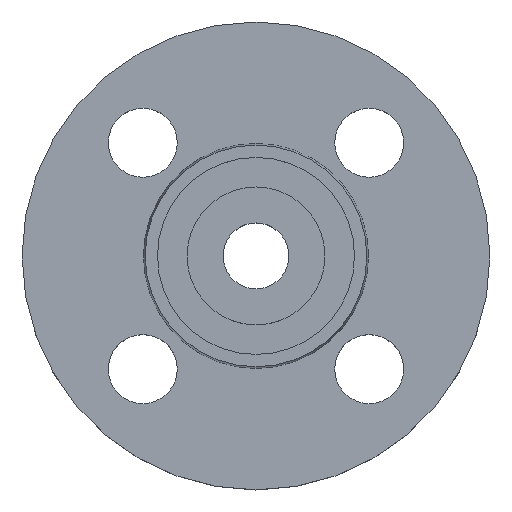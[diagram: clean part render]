
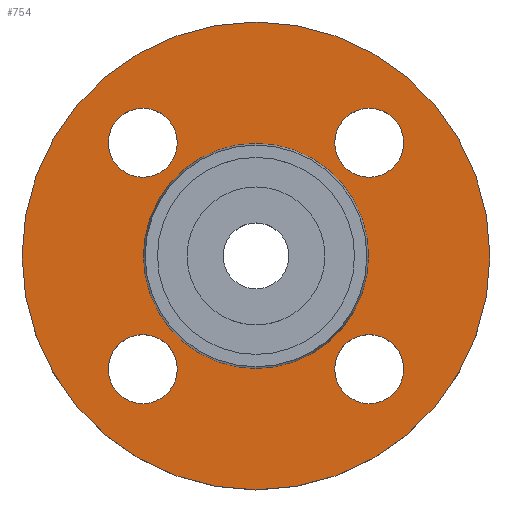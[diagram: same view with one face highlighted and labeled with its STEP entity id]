
A CAD part, top view. The second image highlights one B-rep face of the part: STEP entity #754.
In plain terms, the highlighted planar face has unit normal (0, 0, 1).
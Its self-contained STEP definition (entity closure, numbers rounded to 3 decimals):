
#1 = CIRCLE ( 'NONE', #639, 47.5 ) ;
#9 = CARTESIAN_POINT ( 'NONE',  ( 15.981, -22.981, -2. ) ) ;
#35 = CARTESIAN_POINT ( 'NONE',  ( 15.981, 22.981, -2. ) ) ;
#41 = CIRCLE ( 'NONE', #679, 22.853 ) ;
#45 = AXIS2_PLACEMENT_3D ( 'NONE', #707, #372, #641 ) ;
#46 = DIRECTION ( 'NONE',  ( -1., 0., 0. ) ) ;
#48 = CARTESIAN_POINT ( 'NONE',  ( 29.981, -22.981, -2. ) ) ;
#51 = DIRECTION ( 'NONE',  ( 0., 0., -1. ) ) ;
#53 = CARTESIAN_POINT ( 'NONE',  ( 0., 0., -2. ) ) ;
#59 = CIRCLE ( 'NONE', #384, 7. ) ;
#102 = EDGE_CURVE ( 'NONE', #618, #702, #153, .T. ) ;
#108 = CARTESIAN_POINT ( 'NONE',  ( 47.5, 0., -2. ) ) ;
#109 = EDGE_CURVE ( 'NONE', #669, #540, #303, .T. ) ;
#133 = DIRECTION ( 'NONE',  ( 1., 0., 0. ) ) ;
#134 = DIRECTION ( 'NONE',  ( 0., 0., -1. ) ) ;
#135 = CARTESIAN_POINT ( 'NONE',  ( 22.981, -22.981, -2. ) ) ;
#136 = CARTESIAN_POINT ( 'NONE',  ( -29.981, 22.981, -2. ) ) ;
#137 = AXIS2_PLACEMENT_3D ( 'NONE', #221, #190, #216 ) ;
#153 = CIRCLE ( 'NONE', #262, 7. ) ;
#167 = DIRECTION ( 'NONE',  ( 0., 0., -1. ) ) ;
#177 = CARTESIAN_POINT ( 'NONE',  ( -22.981, -22.981, -2. ) ) ;
#183 = CIRCLE ( 'NONE', #388, 7. ) ;
#186 = CARTESIAN_POINT ( 'NONE',  ( 0., 0., -2. ) ) ;
#189 = EDGE_CURVE ( 'NONE', #700, #495, #183, .T. ) ;
#190 = DIRECTION ( 'NONE',  ( 0., 0., -1. ) ) ;
#192 = DIRECTION ( 'NONE',  ( -1., 0., 0. ) ) ;
#194 = DIRECTION ( 'NONE',  ( 1., 0., 0. ) ) ;
#207 = DIRECTION ( 'NONE',  ( 0., 0., -1. ) ) ;
#213 = EDGE_CURVE ( 'NONE', #644, #603, #481, .T. ) ;
#215 = CARTESIAN_POINT ( 'NONE',  ( 0., 0., -2. ) ) ;
#216 = DIRECTION ( 'NONE',  ( 1., 0., 0. ) ) ;
#220 = DIRECTION ( 'NONE',  ( -1., 0., 0. ) ) ;
#221 = CARTESIAN_POINT ( 'NONE',  ( 22.981, 22.981, -2. ) ) ;
#224 = DIRECTION ( 'NONE',  ( 0., 0., -1. ) ) ;
#229 = FACE_BOUND ( 'NONE', #691, .T. ) ;
#238 = CIRCLE ( 'NONE', #247, 22.853 ) ;
#247 = AXIS2_PLACEMENT_3D ( 'NONE', #186, #207, #192 ) ;
#251 = AXIS2_PLACEMENT_3D ( 'NONE', #283, #284, #286 ) ;
#262 = AXIS2_PLACEMENT_3D ( 'NONE', #766, #767, #768 ) ;
#267 = CIRCLE ( 'NONE', #408, 7. ) ;
#269 = CIRCLE ( 'NONE', #137, 7. ) ;
#270 = EDGE_CURVE ( 'NONE', #495, #700, #59, .T. ) ;
#274 = CARTESIAN_POINT ( 'NONE',  ( 29.981, 22.981, -2. ) ) ;
#275 = AXIS2_PLACEMENT_3D ( 'NONE', #135, #134, #133 ) ;
#283 = CARTESIAN_POINT ( 'NONE',  ( -22.981, -22.981, -2. ) ) ;
#284 = DIRECTION ( 'NONE',  ( 0., 0., -1. ) ) ;
#286 = DIRECTION ( 'NONE',  ( 1., 0., 0. ) ) ;
#293 = EDGE_CURVE ( 'NONE', #694, #695, #397, .T. ) ;
#303 = CIRCLE ( 'NONE', #855, 47.5 ) ;
#344 = CARTESIAN_POINT ( 'NONE',  ( -15.981, 22.981, -2. ) ) ;
#368 = EDGE_CURVE ( 'NONE', #702, #618, #269, .T. ) ;
#372 = DIRECTION ( 'NONE',  ( 0., 0., 1. ) ) ;
#378 = EDGE_CURVE ( 'NONE', #712, #680, #238, .T. ) ;
#384 = AXIS2_PLACEMENT_3D ( 'NONE', #865, #868, #870 ) ;
#388 = AXIS2_PLACEMENT_3D ( 'NONE', #810, #813, #814 ) ;
#391 = EDGE_CURVE ( 'NONE', #540, #669, #1, .T. ) ;
#395 = EDGE_CURVE ( 'NONE', #695, #694, #267, .T. ) ;
#397 = CIRCLE ( 'NONE', #251, 7. ) ;
#404 = FACE_OUTER_BOUND ( 'NONE', #686, .T. ) ;
#408 = AXIS2_PLACEMENT_3D ( 'NONE', #177, #224, #194 ) ;
#410 = CARTESIAN_POINT ( 'NONE',  ( -15.981, -22.981, -2. ) ) ;
#454 = FACE_BOUND ( 'NONE', #706, .T. ) ;
#462 = FACE_BOUND ( 'NONE', #671, .T. ) ;
#481 = CIRCLE ( 'NONE', #583, 7. ) ;
#495 = VERTEX_POINT ( 'NONE', #136 ) ;
#496 = EDGE_CURVE ( 'NONE', #603, #644, #552, .T. ) ;
#514 = PLANE ( 'NONE',  #45 ) ;
#528 = ORIENTED_EDGE ( 'NONE', *, *, #496, .T. ) ;
#529 = ORIENTED_EDGE ( 'NONE', *, *, #213, .T. ) ;
#533 = ORIENTED_EDGE ( 'NONE', *, *, #293, .T. ) ;
#539 = ORIENTED_EDGE ( 'NONE', *, *, #395, .T. ) ;
#540 = VERTEX_POINT ( 'NONE', #108 ) ;
#541 = ORIENTED_EDGE ( 'NONE', *, *, #189, .T. ) ;
#545 = ORIENTED_EDGE ( 'NONE', *, *, #270, .T. ) ;
#546 = CARTESIAN_POINT ( 'NONE',  ( -22.853, 0., -2. ) ) ;
#548 = ORIENTED_EDGE ( 'NONE', *, *, #368, .T. ) ;
#549 = ORIENTED_EDGE ( 'NONE', *, *, #102, .T. ) ;
#550 = ORIENTED_EDGE ( 'NONE', *, *, #378, .T. ) ;
#551 = ORIENTED_EDGE ( 'NONE', *, *, #600, .T. ) ;
#552 = CIRCLE ( 'NONE', #275, 7. ) ;
#553 = ORIENTED_EDGE ( 'NONE', *, *, #391, .F. ) ;
#554 = ORIENTED_EDGE ( 'NONE', *, *, #109, .F. ) ;
#583 = AXIS2_PLACEMENT_3D ( 'NONE', #827, #828, #829 ) ;
#600 = EDGE_CURVE ( 'NONE', #680, #712, #41, .T. ) ;
#603 = VERTEX_POINT ( 'NONE', #48 ) ;
#618 = VERTEX_POINT ( 'NONE', #35 ) ;
#639 = AXIS2_PLACEMENT_3D ( 'NONE', #215, #167, #220 ) ;
#641 = DIRECTION ( 'NONE',  ( 1., 0., 0. ) ) ;
#644 = VERTEX_POINT ( 'NONE', #9 ) ;
#669 = VERTEX_POINT ( 'NONE', #802 ) ;
#671 = EDGE_LOOP ( 'NONE', ( #541, #545 ) ) ;
#675 = EDGE_LOOP ( 'NONE', ( #550, #551 ) ) ;
#679 = AXIS2_PLACEMENT_3D ( 'NONE', #53, #51, #46 ) ;
#680 = VERTEX_POINT ( 'NONE', #737 ) ;
#686 = EDGE_LOOP ( 'NONE', ( #553, #554 ) ) ;
#691 = EDGE_LOOP ( 'NONE', ( #548, #549 ) ) ;
#694 = VERTEX_POINT ( 'NONE', #410 ) ;
#695 = VERTEX_POINT ( 'NONE', #733 ) ;
#700 = VERTEX_POINT ( 'NONE', #344 ) ;
#701 = EDGE_LOOP ( 'NONE', ( #533, #539 ) ) ;
#702 = VERTEX_POINT ( 'NONE', #274 ) ;
#706 = EDGE_LOOP ( 'NONE', ( #528, #529 ) ) ;
#707 = CARTESIAN_POINT ( 'NONE',  ( 22.853, 0., -2. ) ) ;
#712 = VERTEX_POINT ( 'NONE', #546 ) ;
#733 = CARTESIAN_POINT ( 'NONE',  ( -29.981, -22.981, -2. ) ) ;
#737 = CARTESIAN_POINT ( 'NONE',  ( 22.853, 0., -2. ) ) ;
#754 = ADVANCED_FACE ( 'NONE', ( #454, #775, #462, #229, #780, #404 ), #514, .T. ) ;
#766 = CARTESIAN_POINT ( 'NONE',  ( 22.981, 22.981, -2. ) ) ;
#767 = DIRECTION ( 'NONE',  ( 0., 0., -1. ) ) ;
#768 = DIRECTION ( 'NONE',  ( 1., 0., 0. ) ) ;
#775 = FACE_BOUND ( 'NONE', #701, .T. ) ;
#776 = CARTESIAN_POINT ( 'NONE',  ( 0., 0., -2. ) ) ;
#777 = DIRECTION ( 'NONE',  ( 0., 0., -1. ) ) ;
#778 = DIRECTION ( 'NONE',  ( -1., 0., 0. ) ) ;
#780 = FACE_BOUND ( 'NONE', #675, .T. ) ;
#802 = CARTESIAN_POINT ( 'NONE',  ( -47.5, 0., -2. ) ) ;
#810 = CARTESIAN_POINT ( 'NONE',  ( -22.981, 22.981, -2. ) ) ;
#813 = DIRECTION ( 'NONE',  ( 0., 0., -1. ) ) ;
#814 = DIRECTION ( 'NONE',  ( 1., 0., 0. ) ) ;
#827 = CARTESIAN_POINT ( 'NONE',  ( 22.981, -22.981, -2. ) ) ;
#828 = DIRECTION ( 'NONE',  ( 0., 0., -1. ) ) ;
#829 = DIRECTION ( 'NONE',  ( 1., 0., 0. ) ) ;
#855 = AXIS2_PLACEMENT_3D ( 'NONE', #776, #777, #778 ) ;
#865 = CARTESIAN_POINT ( 'NONE',  ( -22.981, 22.981, -2. ) ) ;
#868 = DIRECTION ( 'NONE',  ( 0., 0., -1. ) ) ;
#870 = DIRECTION ( 'NONE',  ( 1., 0., 0. ) ) ;
